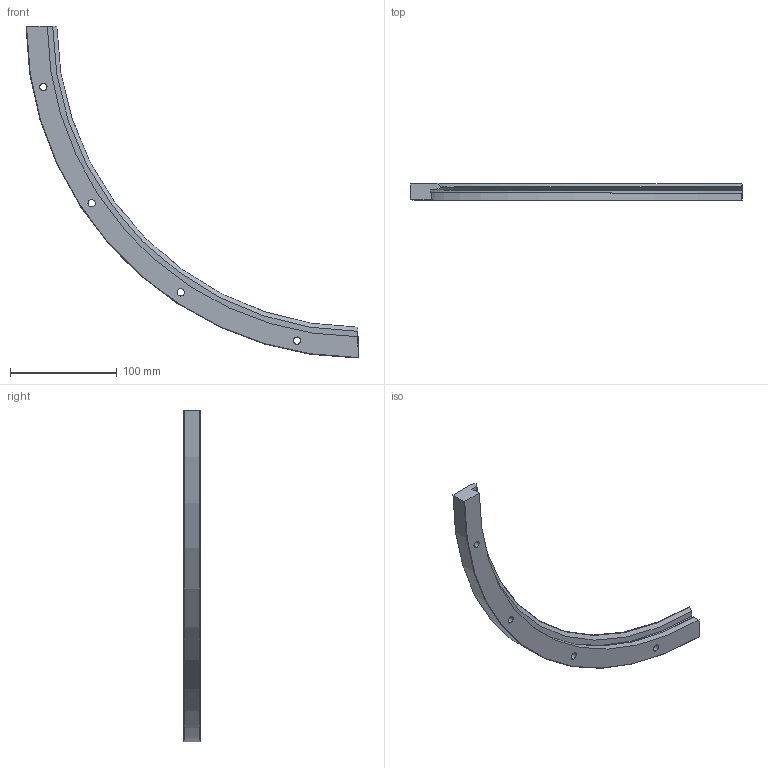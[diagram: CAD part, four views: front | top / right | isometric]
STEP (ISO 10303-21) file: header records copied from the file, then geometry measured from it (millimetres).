
FILE_DESCRIPTION(('STEP AP203'),'1');
FILE_NAME('rim_627_r90.stp','2021-08-30T06:11:11',('TraceParts'),('TraceParts S.A.'),'Spatial InterOp 3D',' ',' ');
FILE_SCHEMA(('CONFIG_CONTROL_DESIGN'));
Length unit declared in the file: millimetre
Products named in the file (1): 1
Bounding box: 311.74 x 15.5 x 311.74 mm (x, y, z)
Volume: 161692.8 mm3; surface area: 42213.6 mm2
Topology: 1 solids, 1 shells, 35 faces, 87 edges, 58 vertices
Faces by surface type: cylinder 19, plane 10, cone 4, torus 2
Entity records: 1146 total; most frequent: CARTESIAN_POINT 225, DIRECTION 192, ORIENTED_EDGE 174, EDGE_CURVE 87, AXIS2_PLACEMENT_3D 81, VERTEX_POINT 58, EDGE_LOOP 47, CIRCLE 45
